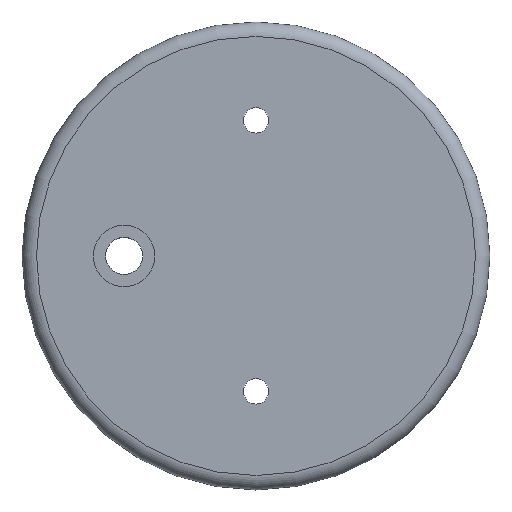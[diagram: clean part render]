
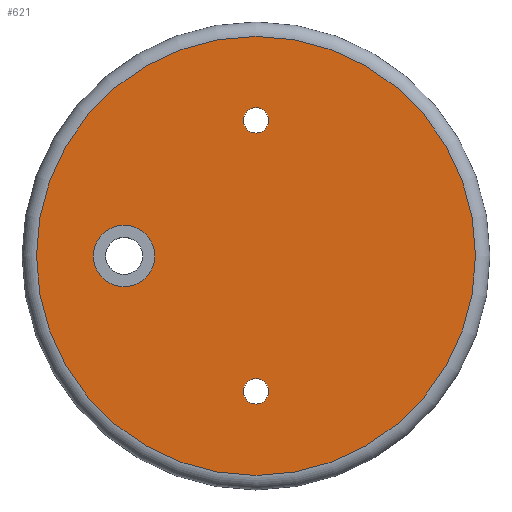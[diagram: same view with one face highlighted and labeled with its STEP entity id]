
A CAD part, top view. The second image highlights one B-rep face of the part: STEP entity #621.
In plain terms, the highlighted planar face has unit normal (0, 0, 1).
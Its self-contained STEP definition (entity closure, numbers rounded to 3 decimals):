
#254 = CYLINDRICAL_SURFACE('',#255,7.);
#255 = AXIS2_PLACEMENT_3D('',#256,#257,#258);
#256 = CARTESIAN_POINT('',(0.,-75.,1.));
#257 = DIRECTION('',(0.,0.,-1.));
#258 = DIRECTION('',(-1.,0.,-0.));
#292 = CYLINDRICAL_SURFACE('',#293,7.);
#293 = AXIS2_PLACEMENT_3D('',#294,#295,#296);
#294 = CARTESIAN_POINT('',(0.,75.,1.));
#295 = DIRECTION('',(0.,0.,-1.));
#296 = DIRECTION('',(-1.,0.,-0.));
#424 = VERTEX_POINT('',#425);
#425 = CARTESIAN_POINT('',(-7.,-75.,0.));
#446 = EDGE_CURVE('',#424,#424,#447,.T.);
#447 = SURFACE_CURVE('',#448,(#453,#460),.PCURVE_S1.);
#448 = CIRCLE('',#449,7.);
#449 = AXIS2_PLACEMENT_3D('',#450,#451,#452);
#450 = CARTESIAN_POINT('',(0.,-75.,0.));
#451 = DIRECTION('',(0.,0.,-1.));
#452 = DIRECTION('',(-1.,0.,-0.));
#453 = PCURVE('',#254,#454);
#454 = DEFINITIONAL_REPRESENTATION('',(#455),#459);
#455 = LINE('',#456,#457);
#456 = CARTESIAN_POINT('',(0.,1.));
#457 = VECTOR('',#458,1.);
#458 = DIRECTION('',(1.,0.));
#459 = ( GEOMETRIC_REPRESENTATION_CONTEXT(2) 
PARAMETRIC_REPRESENTATION_CONTEXT() REPRESENTATION_CONTEXT('2D SPACE',''
  ) );
#460 = PCURVE('',#461,#466);
#461 = PLANE('',#462);
#462 = AXIS2_PLACEMENT_3D('',#463,#464,#465);
#463 = CARTESIAN_POINT('',(0.,0.,0.));
#464 = DIRECTION('',(0.,0.,1.));
#465 = DIRECTION('',(1.,0.,-0.));
#466 = DEFINITIONAL_REPRESENTATION('',(#467),#475);
#467 = ( BOUNDED_CURVE() B_SPLINE_CURVE(2,(#468,#469,#470,#471,#472,#473
,#474),.UNSPECIFIED.,.T.,.F.) B_SPLINE_CURVE_WITH_KNOTS((1,2,2,2,2,1),(
    -2.094,0.,2.094,4.189,6.283,
8.378),.UNSPECIFIED.) CURVE() GEOMETRIC_REPRESENTATION_ITEM() 
RATIONAL_B_SPLINE_CURVE((1.,0.5,1.,0.5,1.,0.5,1.)) REPRESENTATION_ITEM(
  '') );
#468 = CARTESIAN_POINT('',(-7.,-75.));
#469 = CARTESIAN_POINT('',(-7.,-62.876));
#470 = CARTESIAN_POINT('',(3.5,-68.938));
#471 = CARTESIAN_POINT('',(14.,-75.));
#472 = CARTESIAN_POINT('',(3.5,-81.062));
#473 = CARTESIAN_POINT('',(-7.,-87.124));
#474 = CARTESIAN_POINT('',(-7.,-75.));
#475 = ( GEOMETRIC_REPRESENTATION_CONTEXT(2) 
PARAMETRIC_REPRESENTATION_CONTEXT() REPRESENTATION_CONTEXT('2D SPACE',''
  ) );
#483 = VERTEX_POINT('',#484);
#484 = CARTESIAN_POINT('',(-7.,75.,0.));
#505 = EDGE_CURVE('',#483,#483,#506,.T.);
#506 = SURFACE_CURVE('',#507,(#512,#519),.PCURVE_S1.);
#507 = CIRCLE('',#508,7.);
#508 = AXIS2_PLACEMENT_3D('',#509,#510,#511);
#509 = CARTESIAN_POINT('',(0.,75.,0.));
#510 = DIRECTION('',(0.,0.,-1.));
#511 = DIRECTION('',(-1.,0.,-0.));
#512 = PCURVE('',#292,#513);
#513 = DEFINITIONAL_REPRESENTATION('',(#514),#518);
#514 = LINE('',#515,#516);
#515 = CARTESIAN_POINT('',(0.,1.));
#516 = VECTOR('',#517,1.);
#517 = DIRECTION('',(1.,0.));
#518 = ( GEOMETRIC_REPRESENTATION_CONTEXT(2) 
PARAMETRIC_REPRESENTATION_CONTEXT() REPRESENTATION_CONTEXT('2D SPACE',''
  ) );
#519 = PCURVE('',#461,#520);
#520 = DEFINITIONAL_REPRESENTATION('',(#521),#529);
#521 = ( BOUNDED_CURVE() B_SPLINE_CURVE(2,(#522,#523,#524,#525,#526,#527
,#528),.UNSPECIFIED.,.T.,.F.) B_SPLINE_CURVE_WITH_KNOTS((1,2,2,2,2,1),(
    -2.094,0.,2.094,4.189,6.283,
8.378),.UNSPECIFIED.) CURVE() GEOMETRIC_REPRESENTATION_ITEM() 
RATIONAL_B_SPLINE_CURVE((1.,0.5,1.,0.5,1.,0.5,1.)) REPRESENTATION_ITEM(
  '') );
#522 = CARTESIAN_POINT('',(-7.,75.));
#523 = CARTESIAN_POINT('',(-7.,87.124));
#524 = CARTESIAN_POINT('',(3.5,81.062));
#525 = CARTESIAN_POINT('',(14.,75.));
#526 = CARTESIAN_POINT('',(3.5,68.938));
#527 = CARTESIAN_POINT('',(-7.,62.876));
#528 = CARTESIAN_POINT('',(-7.,75.));
#529 = ( GEOMETRIC_REPRESENTATION_CONTEXT(2) 
PARAMETRIC_REPRESENTATION_CONTEXT() REPRESENTATION_CONTEXT('2D SPACE',''
  ) );
#552 = CYLINDRICAL_SURFACE('',#553,17.);
#553 = AXIS2_PLACEMENT_3D('',#554,#555,#556);
#554 = CARTESIAN_POINT('',(-73.,0.,-0.5));
#555 = DIRECTION('',(0.,0.,1.));
#556 = DIRECTION('',(1.,0.,-0.));
#621 = ADVANCED_FACE('',(#622,#653,#656,#659),#461,.T.);
#622 = FACE_BOUND('',#623,.F.);
#623 = EDGE_LOOP('',(#624));
#624 = ORIENTED_EDGE('',*,*,#625,.F.);
#625 = EDGE_CURVE('',#626,#626,#628,.T.);
#626 = VERTEX_POINT('',#627);
#627 = CARTESIAN_POINT('',(121.5,0.,0.));
#628 = SURFACE_CURVE('',#629,(#634,#641),.PCURVE_S1.);
#629 = CIRCLE('',#630,121.5);
#630 = AXIS2_PLACEMENT_3D('',#631,#632,#633);
#631 = CARTESIAN_POINT('',(0.,0.,0.));
#632 = DIRECTION('',(0.,0.,1.));
#633 = DIRECTION('',(1.,0.,-0.));
#634 = PCURVE('',#461,#635);
#635 = DEFINITIONAL_REPRESENTATION('',(#636),#640);
#636 = CIRCLE('',#637,121.5);
#637 = AXIS2_PLACEMENT_2D('',#638,#639);
#638 = CARTESIAN_POINT('',(0.,0.));
#639 = DIRECTION('',(1.,-0.));
#640 = ( GEOMETRIC_REPRESENTATION_CONTEXT(2) 
PARAMETRIC_REPRESENTATION_CONTEXT() REPRESENTATION_CONTEXT('2D SPACE',''
  ) );
#641 = PCURVE('',#642,#647);
#642 = TOROIDAL_SURFACE('',#643,121.5,8.);
#643 = AXIS2_PLACEMENT_3D('',#644,#645,#646);
#644 = CARTESIAN_POINT('',(0.,0.,-8.));
#645 = DIRECTION('',(-0.,-0.,-1.));
#646 = DIRECTION('',(1.,0.,-0.));
#647 = DEFINITIONAL_REPRESENTATION('',(#648),#652);
#648 = LINE('',#649,#650);
#649 = CARTESIAN_POINT('',(-0.,4.712));
#650 = VECTOR('',#651,1.);
#651 = DIRECTION('',(-1.,0.));
#652 = ( GEOMETRIC_REPRESENTATION_CONTEXT(2) 
PARAMETRIC_REPRESENTATION_CONTEXT() REPRESENTATION_CONTEXT('2D SPACE',''
  ) );
#653 = FACE_BOUND('',#654,.F.);
#654 = EDGE_LOOP('',(#655));
#655 = ORIENTED_EDGE('',*,*,#446,.F.);
#656 = FACE_BOUND('',#657,.F.);
#657 = EDGE_LOOP('',(#658));
#658 = ORIENTED_EDGE('',*,*,#505,.F.);
#659 = FACE_BOUND('',#660,.F.);
#660 = EDGE_LOOP('',(#661));
#661 = ORIENTED_EDGE('',*,*,#662,.T.);
#662 = EDGE_CURVE('',#663,#663,#665,.T.);
#663 = VERTEX_POINT('',#664);
#664 = CARTESIAN_POINT('',(-56.,0.,0.));
#665 = SURFACE_CURVE('',#666,(#671,#678),.PCURVE_S1.);
#666 = CIRCLE('',#667,17.);
#667 = AXIS2_PLACEMENT_3D('',#668,#669,#670);
#668 = CARTESIAN_POINT('',(-73.,0.,0.));
#669 = DIRECTION('',(0.,0.,1.));
#670 = DIRECTION('',(1.,0.,-0.));
#671 = PCURVE('',#461,#672);
#672 = DEFINITIONAL_REPRESENTATION('',(#673),#677);
#673 = CIRCLE('',#674,17.);
#674 = AXIS2_PLACEMENT_2D('',#675,#676);
#675 = CARTESIAN_POINT('',(-73.,0.));
#676 = DIRECTION('',(1.,-0.));
#677 = ( GEOMETRIC_REPRESENTATION_CONTEXT(2) 
PARAMETRIC_REPRESENTATION_CONTEXT() REPRESENTATION_CONTEXT('2D SPACE',''
  ) );
#678 = PCURVE('',#552,#679);
#679 = DEFINITIONAL_REPRESENTATION('',(#680),#684);
#680 = LINE('',#681,#682);
#681 = CARTESIAN_POINT('',(0.,0.5));
#682 = VECTOR('',#683,1.);
#683 = DIRECTION('',(1.,0.));
#684 = ( GEOMETRIC_REPRESENTATION_CONTEXT(2) 
PARAMETRIC_REPRESENTATION_CONTEXT() REPRESENTATION_CONTEXT('2D SPACE',''
  ) );
